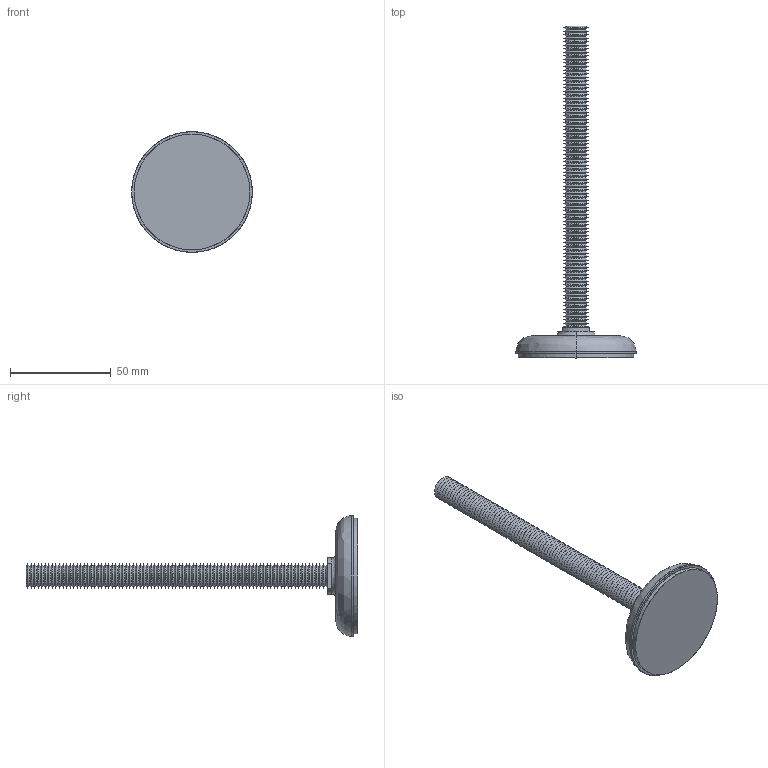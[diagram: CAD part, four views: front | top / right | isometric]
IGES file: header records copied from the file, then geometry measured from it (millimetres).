
Start section: SolidWorks IGES file using analytic representation for surfaces
Global section: file name: C:\Documents and Settings\IANO\Desktop\Temp File\Process pending\EXISTING\34780_v2\34780_v2_20170626_IGES\34780.W0127.igs; native system: SolidWorks 2009; preprocessor: SolidWorks 2009; author: IANO; date: 170626.122452; units: millimetre
Bounding box: 60 x 165 x 60 mm (x, y, z)
Surface area: 29057.5 mm2 (no closed solid volume)
Topology: 0 solids, 0 shells, 408 faces, 2546 edges, 2546 vertices
Faces by surface type: revolution 380, bspline 28
